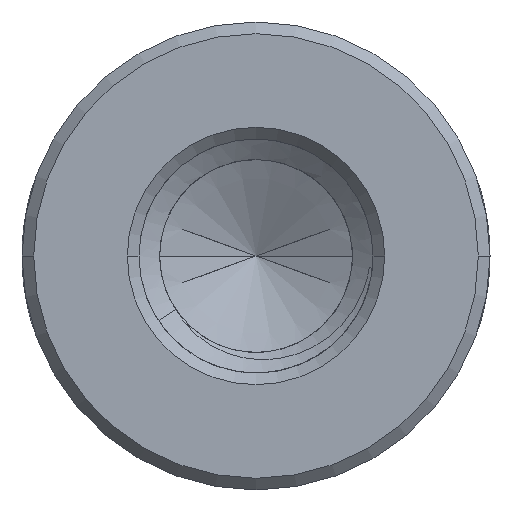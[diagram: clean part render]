
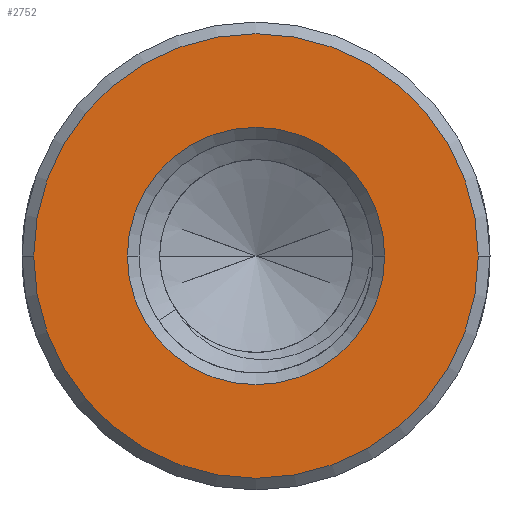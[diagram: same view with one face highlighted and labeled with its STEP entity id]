
A CAD part, front view. The second image highlights one B-rep face of the part: STEP entity #2752.
In plain terms, the highlighted planar face has unit normal (0, -1, 0).
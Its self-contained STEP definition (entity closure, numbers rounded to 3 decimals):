
#1=CARTESIAN_POINT('',(0.,-15.,0.));
#2=DIRECTION('',(0.,-1.,0.));
#3=DIRECTION('',(-1.,0.,0.));
#4=AXIS2_PLACEMENT_3D('',#1,#2,#3);
#6=CARTESIAN_POINT('',(0.,-15.,0.));
#7=DIRECTION('',(0.,-1.,0.));
#8=DIRECTION('',(1.,0.,0.));
#9=AXIS2_PLACEMENT_3D('',#6,#7,#8);
#11=CARTESIAN_POINT('',(0.,-15.,0.));
#12=DIRECTION('',(0.,1.,0.));
#13=DIRECTION('',(-1.,0.,0.));
#14=AXIS2_PLACEMENT_3D('',#11,#12,#13);
#16=CARTESIAN_POINT('',(0.,-15.,0.));
#17=DIRECTION('',(0.,1.,0.));
#18=DIRECTION('',(1.,0.,0.));
#19=AXIS2_PLACEMENT_3D('',#16,#17,#18);
#2589=CARTESIAN_POINT('',(-5.7,-15.,0.));
#2590=CARTESIAN_POINT('',(5.7,-15.,0.));
#2591=VERTEX_POINT('',#2589);
#2592=VERTEX_POINT('',#2590);
#2727=CARTESIAN_POINT('',(-3.3,-15.,0.));
#2728=CARTESIAN_POINT('',(3.3,-15.,0.));
#2729=VERTEX_POINT('',#2727);
#2730=VERTEX_POINT('',#2728);
#2735=CARTESIAN_POINT('',(0.,-15.,0.));
#2736=DIRECTION('',(0.,1.,0.));
#2737=DIRECTION('',(1.,0.,0.));
#2738=AXIS2_PLACEMENT_3D('',#2735,#2736,#2737);
#2739=PLANE('',#2738);
#2741=ORIENTED_EDGE('',*,*,#2740,.F.);
#2743=ORIENTED_EDGE('',*,*,#2742,.F.);
#2744=EDGE_LOOP('',(#2741,#2743));
#2745=FACE_OUTER_BOUND('',#2744,.F.);
#2747=ORIENTED_EDGE('',*,*,#2746,.F.);
#2749=ORIENTED_EDGE('',*,*,#2748,.F.);
#2750=EDGE_LOOP('',(#2747,#2749));
#2751=FACE_BOUND('',#2750,.F.);
#2752=ADVANCED_FACE('',(#2745,#2751),#2739,.F.);
#5=CIRCLE('',#4,5.7);
#10=CIRCLE('',#9,5.7);
#15=CIRCLE('',#14,3.3);
#20=CIRCLE('',#19,3.3);
#2740=EDGE_CURVE('',#2591,#2592,#5,.T.);
#2742=EDGE_CURVE('',#2592,#2591,#10,.T.);
#2746=EDGE_CURVE('',#2729,#2730,#15,.T.);
#2748=EDGE_CURVE('',#2730,#2729,#20,.T.);
